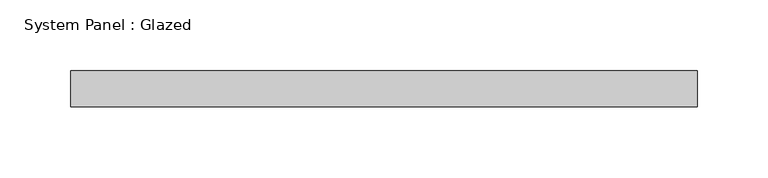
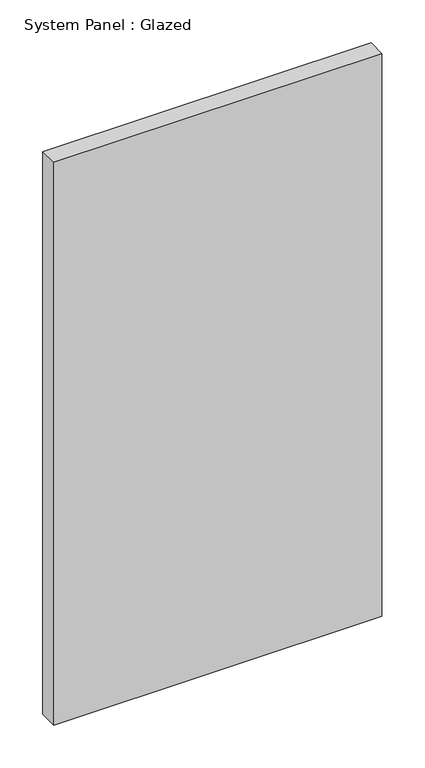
"""IFC4 building model written with IfcOpenShell, lengths in millimetres: plate geometry, System Panel : Glazed."""

from ifc_helpers import new_model, si_unit, origin, origin_with_axes, place, context, project, spatial, polyline, outline, extrude, source, transform, mapped, element, save


def system_panel_glazed_4a8b0cf2(model_context):
    return source(origin(), model_context, "Body", "SweptSolid", [
        extrude(outline(polyline([(221.3561983, -44.45), (-221.3561983, -44.45), (-221.3561983, -19.05), (221.3561983, -19.05), (221.3561983, -44.45)])), origin_with_axes(), (0.0, 0.0, 1.0), 802.4190025),
    ])


if __name__ == "__main__":
    model = new_model("IFC4")
    model_context = context("Model", 3, world=origin())
    ifc_project = project(units=[si_unit("LENGTHUNIT", "METRE", prefix="MILLI")], contexts=[model_context])
    site = spatial("IfcSite", under=ifc_project)
    building = spatial("IfcBuilding", under=site)
    placement = place(None, origin())
    system_panel_glazed_shape = system_panel_glazed_4a8b0cf2(model_context)
    element("IfcPlate", 1, ObjectType="System Panel : Glazed", at=placement, inside=building, context=model_context, shape_type="MappedRepresentation", body=[
        mapped(system_panel_glazed_shape, transform((0.0, 0.0, 0.0), x_axis=(1.0, 0.0, 0.0), y_axis=(0.0, 1.0, 0.0), z_axis=(0.0, 0.0, 1.0))),
    ])
    save(model, "model.ifc")
